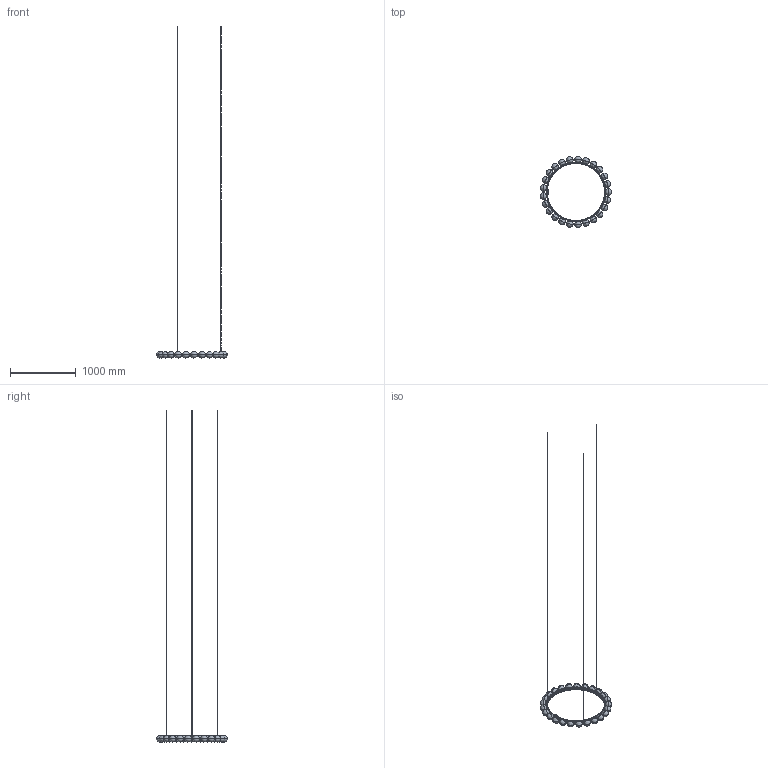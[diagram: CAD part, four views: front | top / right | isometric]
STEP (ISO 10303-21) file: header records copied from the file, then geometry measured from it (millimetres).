
FILE_DESCRIPTION(/* description */ (''),/* implementation_level */ '2;1');
FILE_NAME(/* name */ 'M116__~2',/* time_stamp */ '2024-07-03T11:14:43+02:00',/* author */ (''),/* organization */ (''),/* preprocessor_version */ 'ST-DEVELOPER v16.5',/* originating_system */ '',/* authorisation */ '');
FILE_SCHEMA (('AUTOMOTIVE_DESIGN'));
Products named in the file (1): Document
Bounding box: 1088.58 x 1090.44 x 5062.99 mm (x, y, z)
Volume: 3144880.4 mm3; surface area: 2275204 mm2
Topology: 57 solids, 57 shells, 1883 faces, 4873 edges, 2892 vertices
Faces by surface type: bspline 1623, plane 260
Entity records: 117028 total; most frequent: CARTESIAN_POINT 91675, ORIENTED_EDGE 9222, EDGE_CURVE 4611, VERTEX_POINT 2892, EDGE_LOOP 2091, ADVANCED_FACE 1883, FACE_OUTER_BOUND 1883, B_SPLINE_CURVE_WITH_KNOTS 1558
